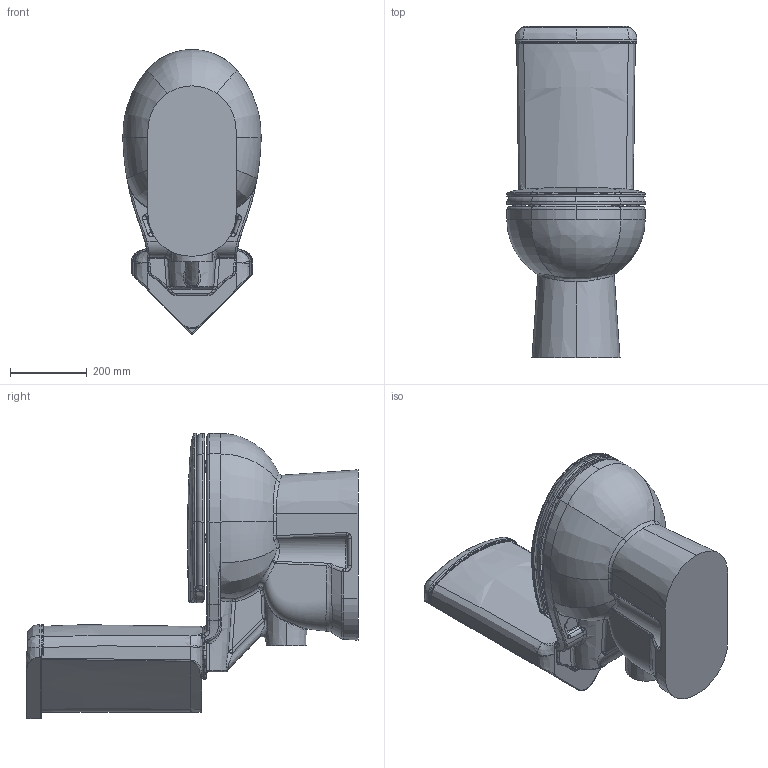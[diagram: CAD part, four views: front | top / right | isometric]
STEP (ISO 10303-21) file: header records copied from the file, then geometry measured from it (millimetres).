
FILE_DESCRIPTION (( 'STEP AP203' ), '1' );
FILE_NAME ('sd310+440+KC4020-1.STEP', '2018-04-09T12:01:30', ( '' ), ( '' ), 'SwSTEP 2.0', 'SolidWorks 2018', '' );
FILE_SCHEMA (( 'CONFIG_CONTROL_DESIGN' ));
Products named in the file (1): sd310+440+KC4020-1
Bounding box: 361.45 x 867.5 x 744.75 mm (x, y, z)
Volume: 58012655.1 mm3; surface area: 2028829.5 mm2
Topology: 5 solids, 8 shells, 773 faces, 1886 edges, 1101 vertices
Faces by surface type: bspline 337, cylinder 169, torus 115, plane 101, cone 26, sphere 25
Entity records: 89930 total; most frequent: CARTESIAN_POINT 74348, ORIENTED_EDGE 3700, DIRECTION 2657, EDGE_CURVE 1850, AXIS2_PLACEMENT_3D 1152, VERTEX_POINT 1101, EDGE_LOOP 785, ADVANCED_FACE 773
